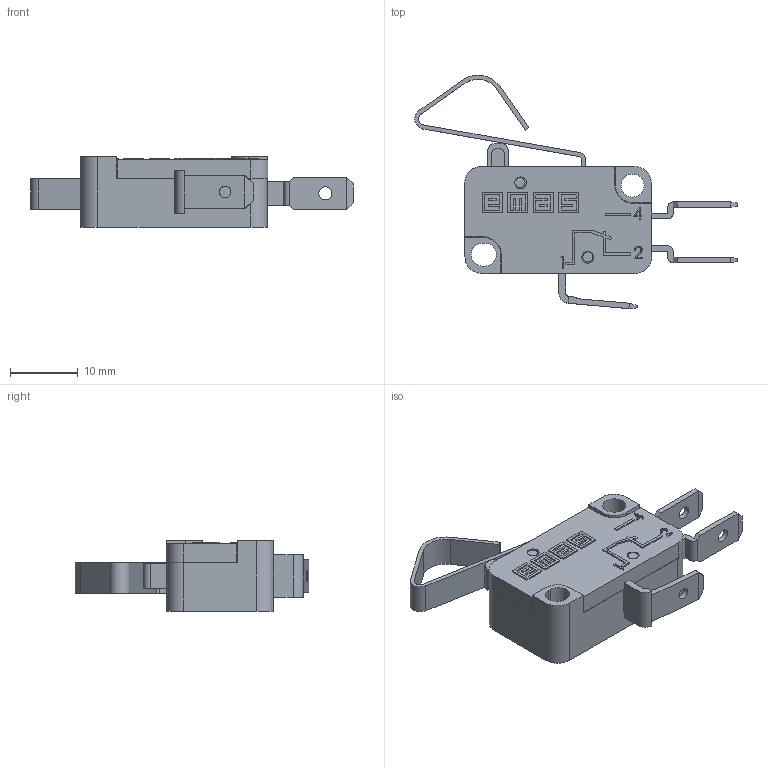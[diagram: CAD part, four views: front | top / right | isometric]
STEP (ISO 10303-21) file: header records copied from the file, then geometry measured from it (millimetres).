
FILE_DESCRIPTION((''),'2; 1');
FILE_NAME('','2026-03-27T16:19:57',(''),(''),'CST STEP Exporter V1.0','Unknown','');
FILE_SCHEMA(('CONFIG_CONTROL_DESIGN'));
Length unit declared in the file: metre
Assembly tree (9 placements, depth 2):
  (unnamed)
    (unnamed)
    (unnamed)
    (unnamed)
    (unnamed)
    (unnamed)
    (unnamed)
    (unnamed)
    (unnamed)
    (unnamed)
Bounding box: 47.74 x 34.5 x 10.4 mm (x, y, z)
Surface area: 7437.1 mm2 (no closed solid volume)
Topology: 0 solids, 9 shells, 292 faces, 1034 edges, 762 vertices
Faces by surface type: plane 247, cylinder 39, extrusion 6
Full cylindrical faces by diameter (mm): 1.5 x2, 1.7 x1, 1.75 x2, 1.95 x2, 3.4 x1
Entity records: 13554 total; most frequent: CARTESIAN_POINT 2257, DIRECTION 1729, ORIENTED_EDGE 1721, EDGE_CURVE 1024, VECTOR 853, LINE 847, VERTEX_POINT 760, AXIS2_PLACEMENT_3D 438
